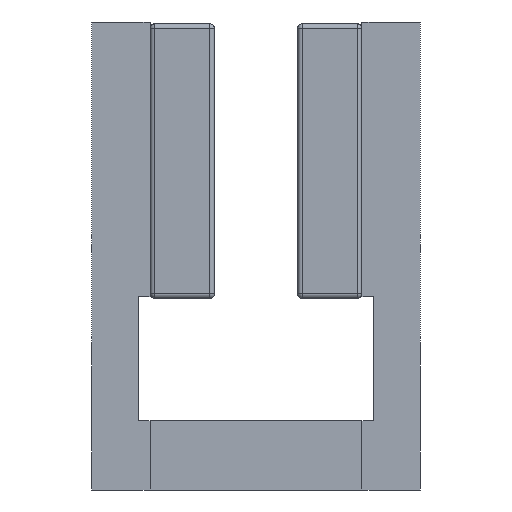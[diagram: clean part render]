
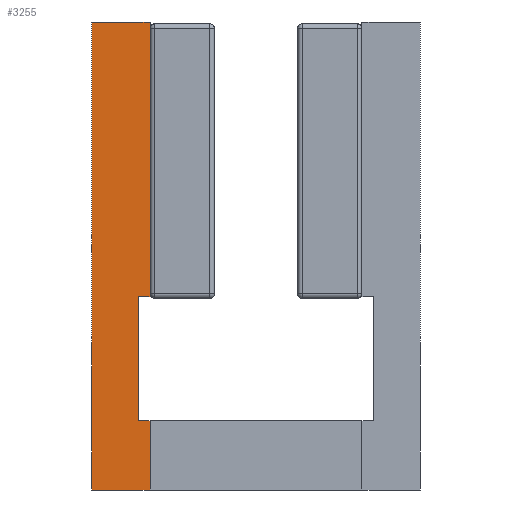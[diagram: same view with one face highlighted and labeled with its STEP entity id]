
A CAD part, front view. The second image highlights one B-rep face of the part: STEP entity #3255.
In plain terms, the highlighted planar face has unit normal (0, -1, 0).
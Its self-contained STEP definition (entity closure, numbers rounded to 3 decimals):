
#164 = VECTOR ( 'NONE', #2668, 1000. ) ;
#216 = CARTESIAN_POINT ( 'NONE',  ( -6.002, -141.89, 18.723 ) ) ;
#384 = DIRECTION ( 'NONE',  ( -1., 0., 0. ) ) ;
#593 = CARTESIAN_POINT ( 'NONE',  ( -4.702, -141.89, 62.023 ) ) ;
#702 = ORIENTED_EDGE ( 'NONE', *, *, #1077, .F. ) ;
#747 = ORIENTED_EDGE ( 'NONE', *, *, #5273, .T. ) ;
#837 = LINE ( 'NONE', #6969, #2357 ) ;
#1000 = PLANE ( 'NONE',  #4115 ) ;
#1068 = CARTESIAN_POINT ( 'NONE',  ( -11.052, -141.89, 11.223 ) ) ;
#1077 = EDGE_CURVE ( 'Defeatured_0_3+Defeatured_0_5+Defeatured_0_2+Defeatured_0_46', #4509, #1551, #3451, .T. ) ;
#1235 = EDGE_LOOP ( 'NONE', ( #702, #8009, #5002, #747, #4779, #6615, #5454, #7311 ) ) ;
#1273 = VERTEX_POINT ( 'NONE', #1068 ) ;
#1382 = DIRECTION ( 'NONE',  ( 0., 0., 1. ) ) ;
#1390 = DIRECTION ( 'NONE',  ( 1., 0., 0. ) ) ;
#1453 = CARTESIAN_POINT ( 'NONE',  ( -6.002, -141.89, 32.223 ) ) ;
#1551 = VERTEX_POINT ( 'NONE', #4699 ) ;
#1579 = VECTOR ( 'NONE', #1390, 1000. ) ;
#1699 = LINE ( 'NONE', #3593, #2884 ) ;
#1937 = CARTESIAN_POINT ( 'NONE',  ( -4.702, -141.89, 11.223 ) ) ;
#2262 = DIRECTION ( 'NONE',  ( 0., 0., 1. ) ) ;
#2288 = EDGE_CURVE ( 'Defeatured_0_1+Defeatured_0_5+Defeatured_0_0+Defeatured_0_2', #2937, #3062, #6416, .T. ) ;
#2357 = VECTOR ( 'NONE', #2594, 1000. ) ;
#2594 = DIRECTION ( 'NONE',  ( 0., 0., 1. ) ) ;
#2668 = DIRECTION ( 'NONE',  ( 0., 0., -1. ) ) ;
#2723 = VERTEX_POINT ( 'NONE', #3469 ) ;
#2875 = FACE_OUTER_BOUND ( 'NONE', #1235, .T. ) ;
#2884 = VECTOR ( 'NONE', #384, 1000. ) ;
#2937 = VERTEX_POINT ( 'NONE', #4820 ) ;
#2992 = VECTOR ( 'NONE', #5349, 1000. ) ;
#3062 = VERTEX_POINT ( 'NONE', #1453 ) ;
#3135 = EDGE_CURVE ( 'Defeatured_0_5+Defeatured_0_6+Defeatured_0_7+Defeatured_0_8', #2723, #1273, #4731, .T. ) ;
#3255 = ADVANCED_FACE ( 'Defeatured_0_5', ( #2875 ), #1000, .T. ) ;
#3383 = DIRECTION ( 'NONE',  ( 0., 0., -1. ) ) ;
#3451 = LINE ( 'NONE', #3492, #2992 ) ;
#3469 = CARTESIAN_POINT ( 'NONE',  ( -11.052, -141.89, 62.023 ) ) ;
#3492 = CARTESIAN_POINT ( 'NONE',  ( -4.702, -141.89, 18.723 ) ) ;
#3593 = CARTESIAN_POINT ( 'NONE',  ( -4.702, -141.89, 62.023 ) ) ;
#3847 = LINE ( 'NONE', #7022, #1579 ) ;
#3943 = CARTESIAN_POINT ( 'NONE',  ( -4.702, -141.89, 32.223 ) ) ;
#4115 = AXIS2_PLACEMENT_3D ( 'NONE', #5397, #7916, #2262 ) ;
#4496 = LINE ( 'NONE', #7015, #5140 ) ;
#4509 = VERTEX_POINT ( 'NONE', #4678 ) ;
#4678 = CARTESIAN_POINT ( 'NONE',  ( -6.002, -141.89, 18.723 ) ) ;
#4699 = CARTESIAN_POINT ( 'NONE',  ( -4.702, -141.89, 18.723 ) ) ;
#4731 = LINE ( 'NONE', #7838, #5434 ) ;
#4779 = ORIENTED_EDGE ( 'NONE', *, *, #5624, .T. ) ;
#4820 = CARTESIAN_POINT ( 'NONE',  ( -4.702, -141.89, 32.223 ) ) ;
#5002 = ORIENTED_EDGE ( 'NONE', *, *, #2288, .F. ) ;
#5015 = VERTEX_POINT ( 'NONE', #593 ) ;
#5140 = VECTOR ( 'NONE', #1382, 1000. ) ;
#5273 = EDGE_CURVE ( 'Defeatured_0_5+Defeatured_0_0+Defeatured_0_1+Defeatured_0_7', #2937, #5015, #4496, .T. ) ;
#5349 = DIRECTION ( 'NONE',  ( 1., 0., 0. ) ) ;
#5397 = CARTESIAN_POINT ( 'NONE',  ( -4.702, -141.89, 11.223 ) ) ;
#5434 = VECTOR ( 'NONE', #3383, 1000. ) ;
#5454 = ORIENTED_EDGE ( 'NONE', *, *, #5482, .T. ) ;
#5482 = EDGE_CURVE ( 'Defeatured_0_5+Defeatured_0_8+Defeatured_0_6+Defeatured_0_43', #1273, #7536, #3847, .T. ) ;
#5624 = EDGE_CURVE ( 'Defeatured_0_5+Defeatured_0_7+Defeatured_0_0+Defeatured_0_6', #5015, #2723, #1699, .T. ) ;
#5909 = EDGE_CURVE ( 'Defeatured_0_5+Defeatured_0_43+Defeatured_0_8+Defeatured_0_3', #7536, #1551, #837, .T. ) ;
#6416 = LINE ( 'NONE', #3943, #8132 ) ;
#6615 = ORIENTED_EDGE ( 'NONE', *, *, #3135, .T. ) ;
#6969 = CARTESIAN_POINT ( 'NONE',  ( -4.702, -141.89, 11.223 ) ) ;
#7015 = CARTESIAN_POINT ( 'NONE',  ( -4.702, -141.89, 11.223 ) ) ;
#7022 = CARTESIAN_POINT ( 'NONE',  ( -11.052, -141.89, 11.223 ) ) ;
#7048 = LINE ( 'NONE', #216, #164 ) ;
#7082 = DIRECTION ( 'NONE',  ( -1., 0., 0. ) ) ;
#7311 = ORIENTED_EDGE ( 'NONE', *, *, #5909, .T. ) ;
#7536 = VERTEX_POINT ( 'NONE', #1937 ) ;
#7552 = EDGE_CURVE ( 'Defeatured_0_2+Defeatured_0_5+Defeatured_0_1+Defeatured_0_3', #3062, #4509, #7048, .T. ) ;
#7838 = CARTESIAN_POINT ( 'NONE',  ( -11.052, -141.89, 62.023 ) ) ;
#7916 = DIRECTION ( 'NONE',  ( 0., -1., 0. ) ) ;
#8009 = ORIENTED_EDGE ( 'NONE', *, *, #7552, .F. ) ;
#8132 = VECTOR ( 'NONE', #7082, 1000. ) ;
